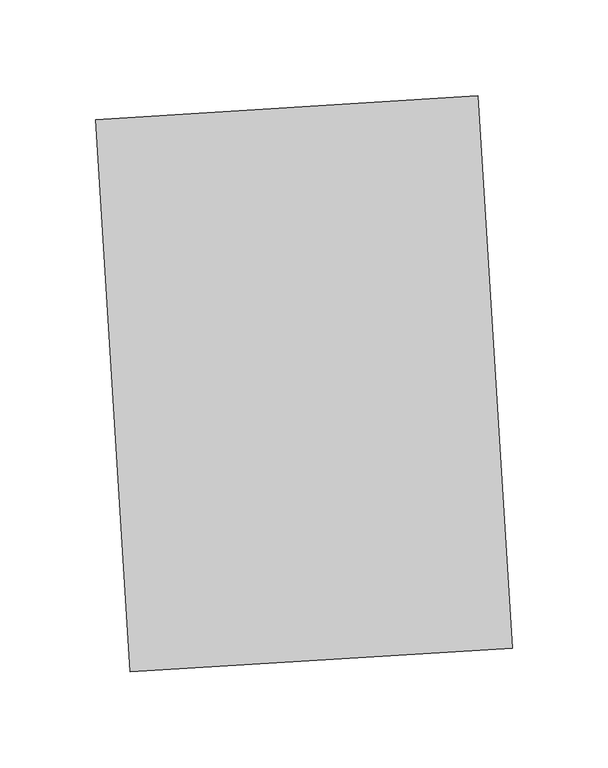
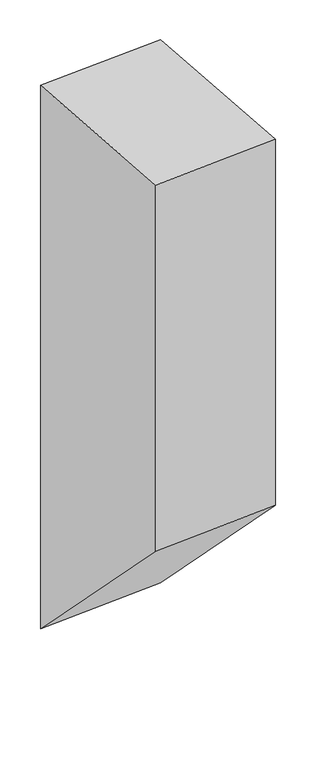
"""IFC4 building model written with IfcOpenShell, lengths in millimetres: beam geometry, appoggiTravi10 : appoggiTravi."""

from ifc_helpers import new_model, si_unit, frame, origin, place, context, project, spatial, polyline, outline, extrude, source, transform, mapped, element, save


def beam_6b7efa57(model_context):
    return source(origin(), model_context, "Body", "SweptSolid", [
        extrude(outline(polyline([(-310.0, 0.0), (310.0, 0.0), (310.0, -288.9377854), (-610.0, -288.9377854), (-310.0, 0.0)])), frame((-5122.2262429, 17681.0599291, -310.0), z_axis=(0.9980552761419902, 0.06233510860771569, 0.0), x_axis=(0.0, 0.0, 1.0)), (0.0, 0.0, 1.0), 200.0),
    ])


if __name__ == "__main__":
    model = new_model("IFC4")
    model_context = context("Model", 3, world=origin())
    ifc_project = project(units=[si_unit("LENGTHUNIT", "METRE", prefix="MILLI")], contexts=[model_context])
    site = spatial("IfcSite", under=ifc_project)
    building = spatial("IfcBuilding", under=site)
    placement = place(None, origin())
    beam_shape = beam_6b7efa57(model_context)
    element("IfcBeam", 1, ObjectType="appoggiTravi10 : appoggiTravi", at=placement, inside=building, context=model_context, shape_type="MappedRepresentation", body=[
        mapped(beam_shape, transform((0.0, 0.0, 0.0), x_axis=(1.0, 0.0, 0.0), y_axis=(0.0, 1.0, 0.0), z_axis=(0.0, 0.0, 1.0))),
    ])
    save(model, "model.ifc")
